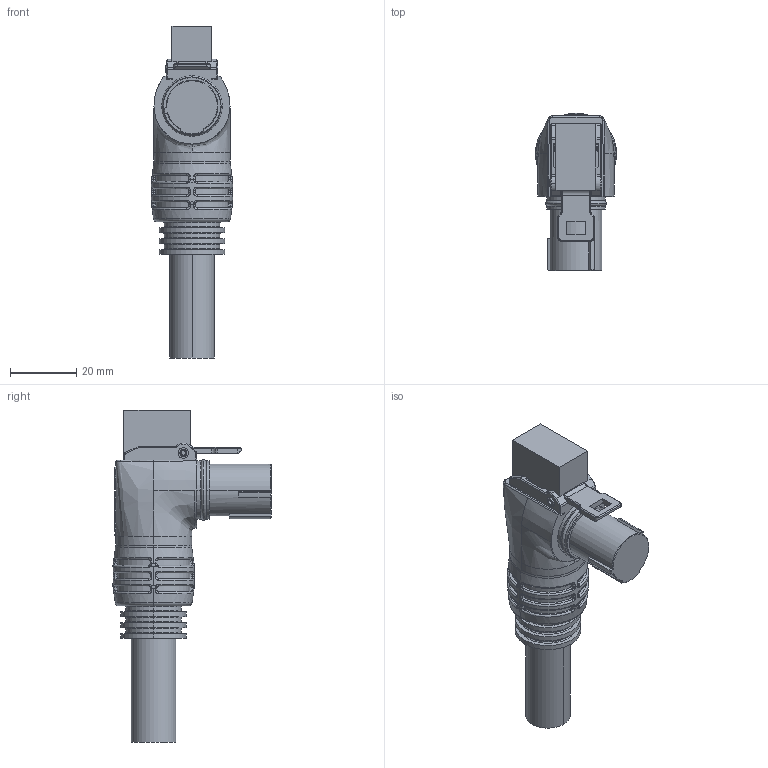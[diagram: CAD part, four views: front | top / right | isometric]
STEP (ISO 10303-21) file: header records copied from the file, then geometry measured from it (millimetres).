
FILE_DESCRIPTION (( 'STEP AP214' ), '1' );
FILE_NAME ('PL20X-121.STEP', '2018-03-22T02:38:48', ( '' ), ( '' ), 'SwSTEP 2.0', 'SolidWorks 2017', '' );
FILE_SCHEMA (( 'AUTOMOTIVE_DESIGN' ));
Length unit declared in the file: millimetre
Products named in the file (1): PL20X-121
Bounding box: 24.6 x 47.8 x 100.41 mm (x, y, z)
Volume: 35965.3 mm3; surface area: 10445.1 mm2
Topology: 2 solids, 3 shells, 653 faces, 1638 edges, 1027 vertices
Faces by surface type: plane 273, cylinder 159, bspline 128, torus 58, cone 35
Entity records: 31749 total; most frequent: CARTESIAN_POINT 9976, ORIENTED_EDGE 3276, DIRECTION 2741, EDGE_CURVE 1638, AXIS2_PLACEMENT_3D 1030, VERTEX_POINT 1027, EDGE_LOOP 697, VECTOR 681
